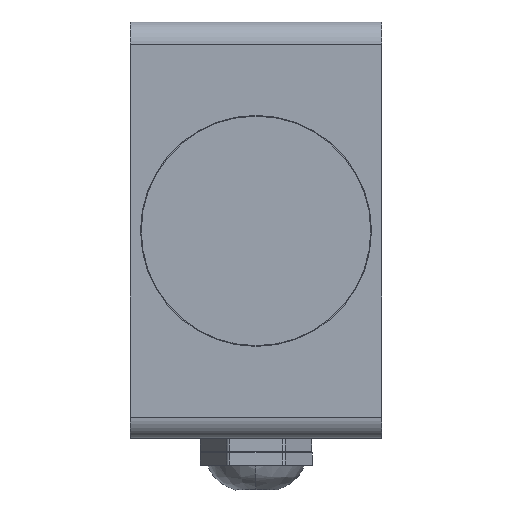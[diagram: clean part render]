
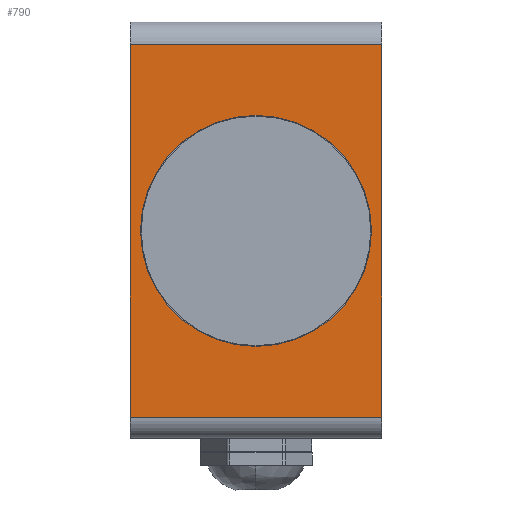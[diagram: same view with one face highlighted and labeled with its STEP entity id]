
A CAD part, left-side view. The second image highlights one B-rep face of the part: STEP entity #790.
In plain terms, the highlighted planar face has unit normal (-1, 0, 0).
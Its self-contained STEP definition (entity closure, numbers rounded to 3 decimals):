
#26=FACE_BOUND('',#1525,.T.);
#253=B_SPLINE_CURVE_WITH_KNOTS('',1,(#10402,#10403),.UNSPECIFIED.,.F.,.F.,
(2,2),(53.563,107.126),.UNSPECIFIED.);
#254=B_SPLINE_CURVE_WITH_KNOTS('',1,(#10404,#10405),.UNSPECIFIED.,.F.,.F.,
(2,2),(53.563,107.126),.UNSPECIFIED.);
#790=ADVANCED_FACE('',(#1152,#26),#6128,.T.);
#1152=FACE_OUTER_BOUND('',#1524,.T.);
#1524=EDGE_LOOP('',(#2575,#2576,#2577,#2578));
#1525=EDGE_LOOP('',(#2579,#2580));
#2575=ORIENTED_EDGE('',*,*,#4002,.T.);
#2576=ORIENTED_EDGE('',*,*,#3991,.T.);
#2577=ORIENTED_EDGE('',*,*,#4003,.F.);
#2578=ORIENTED_EDGE('',*,*,#4000,.F.);
#2579=ORIENTED_EDGE('',*,*,#4168,.T.);
#2580=ORIENTED_EDGE('',*,*,#4308,.T.);
#3991=EDGE_CURVE('',#5619,#5620,#4737,.T.);
#4000=EDGE_CURVE('',#5625,#5626,#4739,.T.);
#4002=EDGE_CURVE('',#5625,#5619,#253,.T.);
#4003=EDGE_CURVE('',#5626,#5620,#254,.T.);
#4168=EDGE_CURVE('',#5736,#5822,#4925,.T.);
#4308=EDGE_CURVE('',#5822,#5736,#4973,.T.);
#4737=(
BOUNDED_CURVE()
B_SPLINE_CURVE(1,(#10375,#10376),.UNSPECIFIED.,.F.,.F.)
B_SPLINE_CURVE_WITH_KNOTS((2,2),(0.,36.1),.UNSPECIFIED.)
CURVE()
GEOMETRIC_REPRESENTATION_ITEM()
RATIONAL_B_SPLINE_CURVE((1.,1.))
REPRESENTATION_ITEM('')
);
#4739=(
BOUNDED_CURVE()
B_SPLINE_CURVE(1,(#10397,#10398),.UNSPECIFIED.,.F.,.F.)
B_SPLINE_CURVE_WITH_KNOTS((2,2),(0.,36.1),.UNSPECIFIED.)
CURVE()
GEOMETRIC_REPRESENTATION_ITEM()
RATIONAL_B_SPLINE_CURVE((1.,1.))
REPRESENTATION_ITEM('')
);
#4925=TRIMMED_CURVE($,#5231,(#10796),(#10797),.T.,.CARTESIAN.);
#4973=TRIMMED_CURVE($,#5279,(#11140),(#11141),.T.,.CARTESIAN.);
#5231=CIRCLE('',#6921,16.6);
#5279=CIRCLE('',#6969,16.6);
#5619=VERTEX_POINT('',#10094);
#5620=VERTEX_POINT('',#10095);
#5625=VERTEX_POINT('',#10100);
#5626=VERTEX_POINT('',#10101);
#5736=VERTEX_POINT('',#10211);
#5822=VERTEX_POINT('',#10297);
#6128=PLANE('',#6734);
#6734=AXIS2_PLACEMENT_3D('',#9960,#7419,$);
#6921=AXIS2_PLACEMENT_3D($,#10795,#7683,#7684);
#6969=AXIS2_PLACEMENT_3D($,#11139,#7779,#7780);
#7419=DIRECTION('',(-1.,0.,0.));
#7683=DIRECTION('',(1.,0.,0.));
#7684=DIRECTION('',(0.,-1.,0.));
#7779=DIRECTION('',(1.,0.,0.));
#7780=DIRECTION('',(0.,1.,0.));
#9960=CARTESIAN_POINT('',(0.,0.,56.563));
#10094=CARTESIAN_POINT('',(0.,0.,56.563));
#10095=CARTESIAN_POINT('',(0.,36.1,56.563));
#10100=CARTESIAN_POINT('',(0.,0.,3.));
#10101=CARTESIAN_POINT('',(0.,36.1,3.));
#10211=CARTESIAN_POINT('',(0.,1.45,29.781));
#10297=CARTESIAN_POINT('',(0.,34.65,29.781));
#10375=CARTESIAN_POINT('',(0.,0.,56.563));
#10376=CARTESIAN_POINT('',(0.,36.1,56.563));
#10397=CARTESIAN_POINT('',(0.,0.,3.));
#10398=CARTESIAN_POINT('',(0.,36.1,3.));
#10402=CARTESIAN_POINT('',(0.,0.,3.));
#10403=CARTESIAN_POINT('',(0.,0.,56.563));
#10404=CARTESIAN_POINT('',(0.,36.1,3.));
#10405=CARTESIAN_POINT('',(0.,36.1,56.563));
#10795=CARTESIAN_POINT('',(0.,18.05,29.781));
#10796=CARTESIAN_POINT('',(0.,1.45,29.781));
#10797=CARTESIAN_POINT('',(0.,34.65,29.781));
#11139=CARTESIAN_POINT('',(0.,18.05,29.781));
#11140=CARTESIAN_POINT('',(0.,34.65,29.781));
#11141=CARTESIAN_POINT('',(0.,1.45,29.781));
